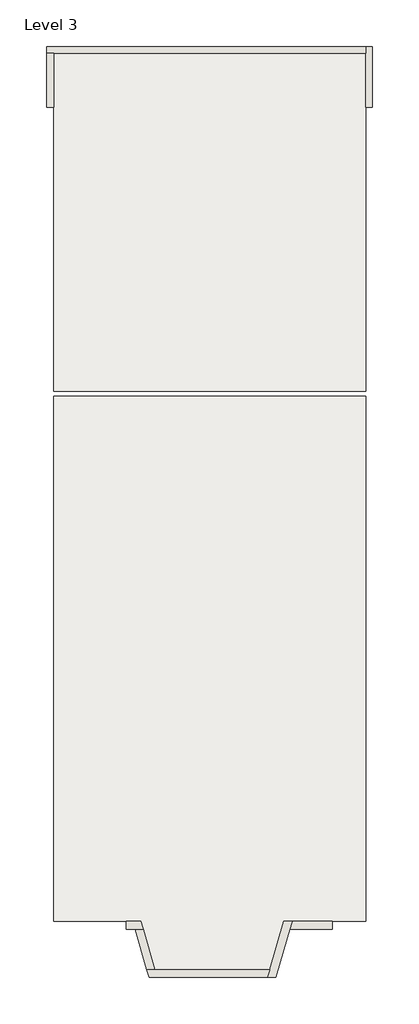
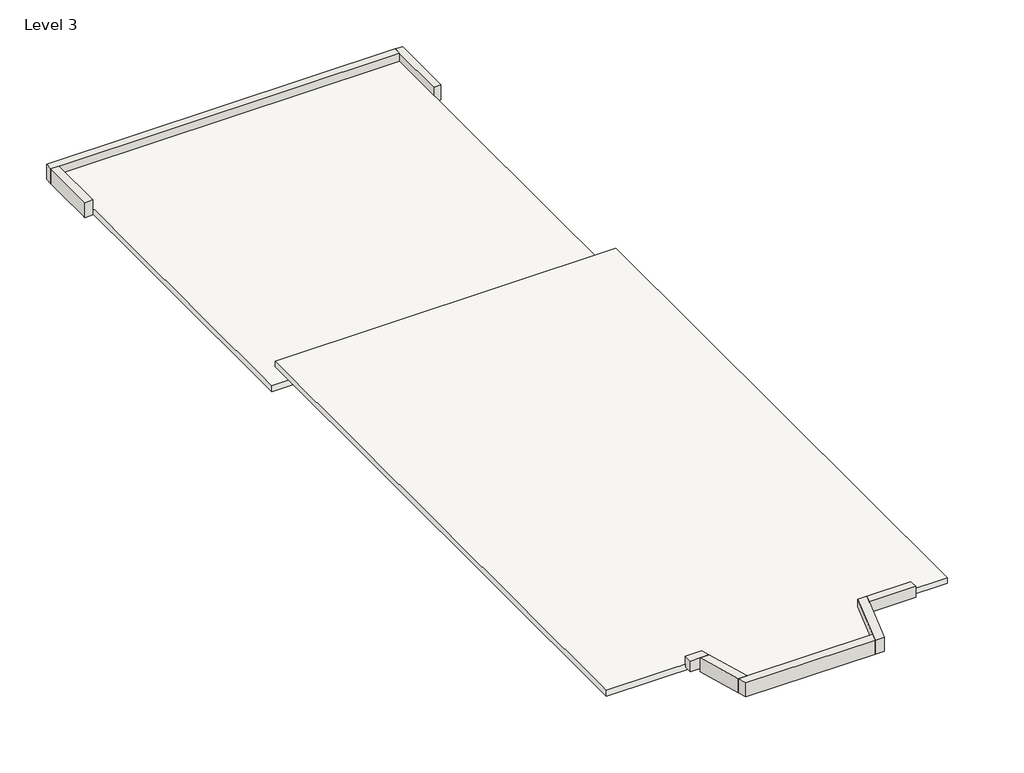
# One storey: 8 walls, 2 roofs.
"""IFC4 building model written with IfcOpenShell, lengths in millimetres."""

from ifc_helpers import new_model, si_unit, frame, origin, place, context, project, spatial, polyline, outline, extrude, faceted_brep, element, save

model = new_model("IFC4")

# Units and contexts
model_context = context("Model", 3, world=origin())
ifc_project = project(units=[si_unit("LENGTHUNIT", "METRE", prefix="MILLI")], contexts=[model_context])

# Site, building, storey
site = spatial("IfcSite", under=ifc_project)
building = spatial("IfcBuilding", under=site)
storey = spatial("IfcBuildingStorey", under=building, Name="Level 3", Elevation=6248.4)

# Roofs
placement = place(None, origin())
element("IfcRoof", 1, ObjectType="Planitar Roof - 5\"", at=placement, inside=storey, context=model_context, shape_type="SweptSolid", body=[
    extrude(outline(polyline([(1117.6, 6813.55), (-5949.95, 6813.55), (-5949.95, 14471.65), (1117.6, 14471.65), (1117.6, 6813.55)])), frame((0.0, 0.0, 5334.0), z_axis=(0.0, 0.0, 1.0), x_axis=(1.0, 0.0, 0.0)), (0.0, 0.0, 1.0), 127.0),
])
element("IfcRoof", 2, ObjectType="Planitar Roof - 5\"", at=placement, inside=storey, context=model_context, shape_type="SweptSolid", body=[
    extrude(outline(polyline([(-5949.95, 6699.25), (1117.6, 6699.25), (1117.6, -5207.0), (-736.3190124, -5207.0), (-1055.987305, -6299.2), (-3656.8991188, -6299.2), (-3976.5674115, -5207.0), (-5949.95, -5207.0), (-5949.95, 6699.25)])), frame((0.0, 0.0, 5943.6), z_axis=(0.0, 0.0, 1.0), x_axis=(1.0, 0.0, 0.0)), (0.0, 0.0, 1.0), 127.0),
])

# Walls
element("IfcWall", 3, ObjectType="Planitar - Generic 6\"", at=placement, inside=storey, context=model_context, shape_type="Brep", body=[
    faceted_brep([(1270.0, 13246.1, 5308.6), (1270.0, 13322.3, 5308.6), (1270.0, 14147.8, 5308.6), (1270.0, 14616.8265686, 5308.6), (1270.0, 14624.05, 5308.6), (1270.0, 14624.05, 5638.8368096), (1270.0, 13246.1, 5638.8368096), (1117.6, 13246.1, 5308.6), (1117.6, 13246.1, 5638.8368096), (1117.6, 14471.65, 5638.8368096), (1117.6, 14624.05, 5638.8368096), (1117.6, 14624.05, 5308.6), (1117.6, 14471.65, 5308.6), (1117.6, 14147.8, 5308.6)], [[[0, 1, 2, 3, 4, 5, 6]], [[7, 8, 9, 10, 11, 12, 13]], [[4, 3, 2, 1, 0, 7, 13, 12, 11]], [[6, 5, 10, 9, 8]], [[0, 6, 8, 7]], [[5, 4, 11, 10]]]),
])
element("IfcWall", 4, ObjectType="Planitar - Generic 6\"", at=placement, inside=storey, context=model_context, shape_type="Brep", body=[
    faceted_brep([(-6115.05, 14471.65, 5308.6), (-5949.95, 14471.65, 5308.6), (-5727.3558119, 14471.65, 5308.6), (882.65, 14471.65, 5308.6), (1117.6, 14471.65, 5308.6), (1117.6, 14471.65, 5334.0), (1117.6, 14471.65, 5638.8368096), (-5949.95, 14471.65, 5638.8368096), (-6115.05, 14471.65, 5638.8368096), (-6115.05, 14624.05, 5308.6), (-6115.05, 14624.05, 5334.0), (-6115.05, 14624.05, 5638.8368096), (1117.6, 14624.05, 5638.8368096), (1117.6, 14624.05, 5308.6), (-5727.3558119, 14624.05, 5308.6)], [[[0, 1, 2, 3, 4, 5, 6, 7, 8]], [[9, 10, 11, 12, 13, 14]], [[4, 3, 2, 1, 0, 9, 14, 13]], [[8, 7, 6, 12, 11]], [[6, 5, 4, 13, 12]], [[0, 8, 11, 10, 9]]]),
])
element("IfcWall", 5, ObjectType="Planitar - Generic 6 1/2\"", at=placement, inside=storey, context=model_context, shape_type="Brep", body=[
    faceted_brep([(-5949.95, 13246.1, 5308.6), (-5949.95, 13322.3, 5308.6), (-5949.95, 14116.05, 5308.6), (-5949.95, 14471.65, 5308.6), (-5949.95, 14471.65, 5334.0), (-5949.95, 14471.65, 5638.8368096), (-5949.95, 13246.1, 5638.8368096), (-6115.05, 13246.1, 5308.6), (-6115.05, 13246.1, 5638.8368096), (-6115.05, 14471.65, 5638.8368096), (-6115.05, 14471.65, 5308.6), (-6115.05, 14116.05, 5308.6), (-6115.05, 13322.3, 5308.6)], [[[0, 1, 2, 3, 4, 5, 6]], [[7, 8, 9, 10, 11, 12]], [[3, 2, 1, 0, 7, 12, 11, 10]], [[6, 5, 9, 8]], [[0, 6, 8, 7]], [[5, 4, 3, 10, 9]]]),
])
element("IfcWall", 6, ObjectType="Planitar - Generic 7\"", at=placement, inside=storey, context=model_context, shape_type="Brep", body=[
    faceted_brep([(-736.3190124, -5207.0, 5943.6), (-1055.987305, -6299.2, 5943.6), (-1108.0263294, -6477.0, 5943.6), (-1108.0263294, -6477.0, 6248.4), (-1055.987305, -6299.2, 6248.4), (-736.3190124, -5207.0, 6248.4), (-551.0600043, -5207.0, 5943.6), (-551.0600043, -5207.0, 6014.4587629), (-551.0600043, -5207.0, 6248.4), (-603.0990287, -5384.8, 6248.4), (-922.7673214, -6477.0, 6248.4), (-922.7673214, -6477.0, 5943.6)], [[[0, 1, 2, 3, 4, 5]], [[6, 7, 8, 9, 10, 11]], [[2, 1, 0, 6, 11]], [[5, 4, 3, 10, 9, 8]], [[3, 2, 11, 10]], [[0, 5, 8, 7, 6]]]),
])
element("IfcWall", 7, ObjectType="Planitar - Generic 7\"", at=placement, inside=storey, context=model_context, shape_type="Brep", body=[
    faceted_brep([(-1055.987305, -6299.2, 5943.6), (-3656.8991188, -6299.2, 5943.6), (-3842.1581269, -6299.2, 5943.6), (-3842.1581269, -6299.2, 6248.4), (-3656.8991188, -6299.2, 6248.4), (-1055.987305, -6299.2, 6248.4), (-1108.0263294, -6477.0, 5943.6), (-1108.0263294, -6477.0, 6248.4), (-3790.1191025, -6477.0, 6248.4), (-3790.1191025, -6477.0, 5943.6)], [[[0, 1, 2, 3, 4, 5]], [[6, 7, 8, 9]], [[2, 1, 0, 6, 9]], [[5, 4, 3, 8, 7]], [[0, 5, 7, 6]], [[3, 2, 9, 8]]]),
])
element("IfcWall", 8, ObjectType="Planitar - Generic 7\"", at=placement, inside=storey, context=model_context, shape_type="Brep", body=[
    faceted_brep([(-3656.8991188, -6299.2, 5943.6), (-3924.5283871, -5384.8, 5943.6), (-3924.5283871, -5384.8, 6014.4587629), (-3924.5283871, -5384.8, 6248.4), (-3656.8991188, -6299.2, 6248.4), (-3842.1581269, -6299.2, 5943.6), (-3842.1581269, -6299.2, 6248.4), (-4109.7873952, -5384.8, 6248.4), (-4109.7873952, -5384.8, 5943.6)], [[[0, 1, 2, 3, 4]], [[5, 6, 7, 8]], [[1, 0, 5, 8]], [[4, 3, 7, 6]], [[0, 4, 6, 5]], [[3, 2, 1, 8, 7]]]),
])
element("IfcWall", 9, ObjectType="Planitar - Generic 7\"", at=placement, inside=storey, context=model_context, shape_type="Brep", body=[
    faceted_brep([(-3976.5674115, -5207.0, 6014.4587629), (-4311.65, -5207.0, 6014.4587629), (-4311.65, -5207.0, 6248.4), (-3976.5674115, -5207.0, 6248.4), (-3924.5283871, -5384.8, 6014.4587629), (-3924.5283871, -5384.8, 6248.4), (-4109.7873952, -5384.8, 6248.4), (-4311.65, -5384.8, 6248.4), (-4311.65, -5384.8, 6014.4587629), (-4311.65, -5219.7, 6014.4587629)], [[[0, 1, 2, 3]], [[4, 5, 6, 7, 8]], [[1, 0, 4, 8, 9]], [[2, 1, 9, 8, 7]], [[3, 2, 7, 6, 5]], [[0, 3, 5, 4]]]),
])
element("IfcWall", 10, ObjectType="Planitar - Generic 7\"", at=placement, inside=storey, context=model_context, shape_type="Brep", body=[
    faceted_brep([(-603.0990287, -5384.8, 6014.4587629), (361.95, -5384.8, 6014.4587629), (361.95, -5384.8, 6248.4), (-603.0990287, -5384.8, 6248.4), (-551.0600043, -5207.0, 6014.4587629), (-551.0600043, -5207.0, 6248.4), (361.95, -5207.0, 6248.4), (361.95, -5207.0, 6014.4587629), (361.95, -5219.7, 6014.4587629), (361.95, -5232.4, 6014.4587629), (361.95, -5232.4, 6248.4)], [[[0, 1, 2, 3]], [[4, 5, 6, 7]], [[1, 0, 4, 7, 8, 9]], [[3, 2, 10, 6, 5]], [[0, 3, 5, 4]], [[2, 1, 9, 8, 7, 6, 10]]]),
])

save(model, "model.ifc")
